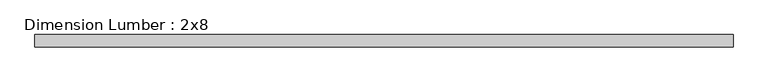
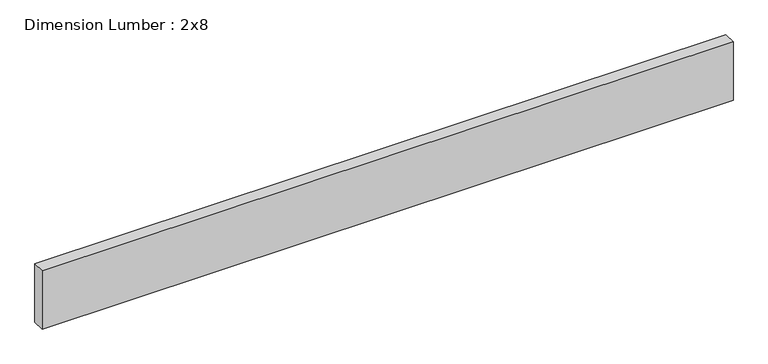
"""IFC4 building model written with IfcOpenShell, lengths in millimetres: beam geometry, Dimension Lumber : 2x8."""

import ifcopenshell
import ifcopenshell.guid

model = None  # the IFC model being written
_history = None  # IfcOwnerHistory: only IFC2X3 demands one
_inside = {}  # id of a spatial element -> (the spatial element, [elements in it])
_under = {}  # id of a project, library or spatial element -> (it, [spatial elements below it])
_declared = {}  # id of a project -> (the project, [libraries it declares])
_typed = {}  # id of a type object -> (the type object, [elements of that type])
_made_of = {}  # id of a material, layer set ... -> (it, [elements and type objects made of it])


def new_model(schema):
    """Start an empty IFC model of exactly this schema.

    Asked for "IFC4X3", IfcOpenShell would pick the latest addendum, in which some entities
    have other attributes; the version numbers below select the first issue.
    IFC2X3 requires an IfcOwnerHistory on every rooted entity: one is made here for all.
    """
    global model, _history
    if schema == "IFC4X3":
        model = ifcopenshell.file(schema_version=(4, 3, 0, 0))
    else:
        model = ifcopenshell.file(schema=schema)
    _inside.clear()
    _under.clear()
    _declared.clear()
    _typed.clear()
    _made_of.clear()
    _history = None
    if model.schema == "IFC2X3":
        org = make("IfcOrganization", Name="unknown")
        user = make(
            "IfcPersonAndOrganization",
            ThePerson=make("IfcPerson", FamilyName="unknown"),
            TheOrganization=org,
        )
        app = make(
            "IfcApplication",
            ApplicationDeveloper=org,
            Version="unknown",
            ApplicationFullName="unknown",
            ApplicationIdentifier="unknown",
        )
        _history = make(
            "IfcOwnerHistory",
            OwningUser=user,
            OwningApplication=app,
            ChangeAction="ADDED",
            CreationDate=0,
        )
    return model


def make(cls, **values):
    """One entity of the class cls with the attributes given. An attribute that is None is left unset."""
    return model.create_entity(
        cls, **{name: value for name, value in values.items() if value is not None}
    )


def rooted(cls, **values):
    """An entity with a GlobalId (a new one), such as an element, a storey or a relation."""
    return make(cls, GlobalId=ifcopenshell.guid.new(), OwnerHistory=_history, **values)


def si_unit(unit_type, name, prefix=None):
    """IfcSIUnit, for example si_unit("LENGTHUNIT", "METRE", prefix="MILLI")."""
    return make("IfcSIUnit", UnitType=unit_type, Prefix=prefix, Name=name)


def assignment(units):
    """IfcUnitAssignment: the units of a project."""
    return None if units is None else make("IfcUnitAssignment", Units=units)


def point(xyz):
    """IfcCartesianPoint."""
    return None if xyz is None else make("IfcCartesianPoint", Coordinates=xyz)


def direction(xyz):
    """IfcDirection."""
    return None if xyz is None else make("IfcDirection", DirectionRatios=xyz)


def frame(location, z_axis=None, x_axis=None):
    """IfcAxis2Placement3D, a coordinate frame: its origin and axes. An axis left out is left unset."""
    return make(
        "IfcAxis2Placement3D",
        Location=point(location),
        Axis=direction(z_axis),
        RefDirection=direction(x_axis),
    )


def origin():
    """The frame at (0, 0, 0) with its axes left unset."""
    return frame((0.0, 0.0, 0.0))


def place(relative_to, where):
    """IfcLocalPlacement: puts the frame where relative to a parent placement (None: the world)."""
    return make(
        "IfcLocalPlacement", PlacementRelTo=relative_to, RelativePlacement=where
    )


def context(
    kind, dimensions, precision=None, world=None, true_north=None, identifier=None
):
    """IfcGeometricRepresentationContext, for example the 3D "Model" context."""
    return make(
        "IfcGeometricRepresentationContext",
        ContextIdentifier=identifier,
        ContextType=kind,
        CoordinateSpaceDimension=dimensions,
        Precision=precision,
        WorldCoordinateSystem=world,
        TrueNorth=true_north,
    )


def project(units=None, contexts=None):
    """IfcProject with its units and contexts."""
    return rooted(
        "IfcProject",
        Name="project",
        RepresentationContexts=contexts,
        UnitsInContext=assignment(units),
    )


def spatial(cls, under=None, at=None, **own):
    """A site, building, storey or space (cls), placed at a placement, below another one or the project."""
    s = rooted(cls, ObjectPlacement=at, **own)
    if under is not None:
        _under.setdefault(under.id(), (under, []))[1].append(s)
    return s


def polyline(points):
    """IfcPolyline through the points."""
    return make("IfcPolyline", Points=[point(p) for p in points])


def outline(outer, holes=None, kind="AREA"):
    """IfcArbitraryClosedProfileDef: a profile drawn as a closed curve; with holes, ...WithVoids."""
    if holes is None:
        return make("IfcArbitraryClosedProfileDef", ProfileType=kind, OuterCurve=outer)
    return make(
        "IfcArbitraryProfileDefWithVoids",
        ProfileType=kind,
        OuterCurve=outer,
        InnerCurves=holes,
    )


def extrude(swept, where, along, depth):
    """IfcExtrudedAreaSolid: the profile swept, set in the frame where, extruded along a direction by depth."""
    return make(
        "IfcExtrudedAreaSolid",
        SweptArea=swept,
        Position=where,
        ExtrudedDirection=direction(along),
        Depth=depth,
    )


def shape(context_of_items, identifier, shape_type, items):
    """IfcShapeRepresentation: the items that make up one representation, for example the "Body"."""
    return make(
        "IfcShapeRepresentation",
        ContextOfItems=context_of_items,
        RepresentationIdentifier=identifier,
        RepresentationType=shape_type,
        Items=items,
    )


def source(mapping_origin, context_of_items, identifier, shape_type, items):
    """IfcRepresentationMap: a shape defined once, which mapped items show again and again."""
    return make(
        "IfcRepresentationMap",
        MappingOrigin=mapping_origin,
        MappedRepresentation=shape(context_of_items, identifier, shape_type, items),
    )


def transform(
    local_origin,
    x_axis=None,
    y_axis=None,
    z_axis=None,
    scale=None,
    scale2=None,
    scale3=None,
    uniform=True,
):
    """IfcCartesianTransformationOperator3D, or its non-uniform kind. x_axis, y_axis, z_axis: its Axis1, 2, 3."""
    if uniform:
        return make(
            "IfcCartesianTransformationOperator3D",
            Axis1=direction(x_axis),
            Axis2=direction(y_axis),
            LocalOrigin=point(local_origin),
            Scale=scale,
            Axis3=direction(z_axis),
        )
    return make(
        "IfcCartesianTransformationOperator3DnonUniform",
        Axis1=direction(x_axis),
        Axis2=direction(y_axis),
        LocalOrigin=point(local_origin),
        Scale=scale,
        Axis3=direction(z_axis),
        Scale2=scale2,
        Scale3=scale3,
    )


def mapped(mapping_source, mapping_target):
    """IfcMappedItem: shows the shape of a source again, moved by a transform."""
    return make(
        "IfcMappedItem", MappingSource=mapping_source, MappingTarget=mapping_target
    )


def made_of(thing, what):
    """Note that an element or type object is made of a material, layer set ...; save() writes the relation."""
    if what is not None:
        _made_of.setdefault(what.id(), (what, []))[1].append(thing)
    return thing


def element(
    cls,
    number,
    at=None,
    inside=None,
    cuts=None,
    type_object=None,
    material=None,
    context=None,
    identifier="Body",
    shape_type=None,
    held_by="IfcProductDefinitionShape",
    body=None,
    shapes=None,
    **own,
):
    """One element of the class cls, such as IfcWall. Its Tag is "e" and its number.

    at: its placement. inside: the storey or other place that contains it. cuts: it is an
    opening in that element (IfcRelVoidsElement). A single representation is given by context,
    identifier, shape_type and body (its items); several are given by shapes. held_by: the class
    of the entity that holds the representations. save() writes the other relations.
    """
    e = rooted(cls, Tag="e%d" % number, ObjectPlacement=at, **own)
    if body is not None:
        shapes = [shape(context, identifier, shape_type, body)]
    if shapes is not None:
        e.Representation = make(held_by, Representations=shapes)
    if inside is not None:
        _inside.setdefault(inside.id(), (inside, []))[1].append(e)
    if cuts is not None:
        rooted(
            "IfcRelVoidsElement", RelatingBuildingElement=cuts, RelatedOpeningElement=e
        )
    if type_object is not None:
        _typed.setdefault(type_object.id(), (type_object, []))[1].append(e)
    return made_of(e, material)


def aggregate(whole, parts):
    """IfcRelAggregates: a whole, such as a stair, and the parts it consists of."""
    return rooted("IfcRelAggregates", RelatingObject=whole, RelatedObjects=parts)


def save(model, path):
    """Write the relations noted so far, then the file.

    IfcRelAggregates (storeys below a building ...), IfcRelContainedInSpatialStructure (elements
    in a storey), IfcRelDefinesByType, IfcRelAssociatesMaterial and IfcRelDeclares: one each for
    every whole, place, type object, material and project.
    """
    for whole, parts in _under.values():
        aggregate(whole, parts)
    for where, things in _inside.values():
        rooted(
            "IfcRelContainedInSpatialStructure",
            RelatedElements=things,
            RelatingStructure=where,
        )
    for kind, things in _typed.values():
        rooted("IfcRelDefinesByType", RelatedObjects=things, RelatingType=kind)
    for what, things in _made_of.values():
        rooted("IfcRelAssociatesMaterial", RelatedObjects=things, RelatingMaterial=what)
    for by, libraries in _declared.values():
        rooted("IfcRelDeclares", RelatingContext=by, RelatedDefinitions=libraries)
    model.write(path)


def dimension_lumber_2x8_b9bcc632(model_context):
    return source(origin(), model_context, "Body", "SweptSolid", [
        extrude(outline(polyline([(1094.1641213, 19.05), (1094.1641213, -19.05), (-1043.3641213, -19.05), (-1043.3641213, 19.05), (1094.1641213, 19.05)])), frame((0.0, 0.0, -95.25), z_axis=(0.0, 0.0, 1.0), x_axis=(1.0, 0.0, 0.0)), (0.0, 0.0, 1.0), 190.5),
    ])


if __name__ == "__main__":
    model = new_model("IFC4")
    model_context = context("Model", 3, world=origin())
    ifc_project = project(units=[si_unit("LENGTHUNIT", "METRE", prefix="MILLI")], contexts=[model_context])
    site = spatial("IfcSite", under=ifc_project)
    building = spatial("IfcBuilding", under=site)
    placement = place(None, origin())
    dimension_lumber_2x8_shape = dimension_lumber_2x8_b9bcc632(model_context)
    element("IfcBeam", 1, ObjectType="Dimension Lumber : 2x8", at=placement, inside=building, context=model_context, shape_type="MappedRepresentation", body=[
        mapped(dimension_lumber_2x8_shape, transform((0.0, 0.0, 0.0), x_axis=(1.0, 0.0, 0.0), y_axis=(0.0, 1.0, 0.0), z_axis=(0.0, 0.0, 1.0))),
    ])
    save(model, "model.ifc")
